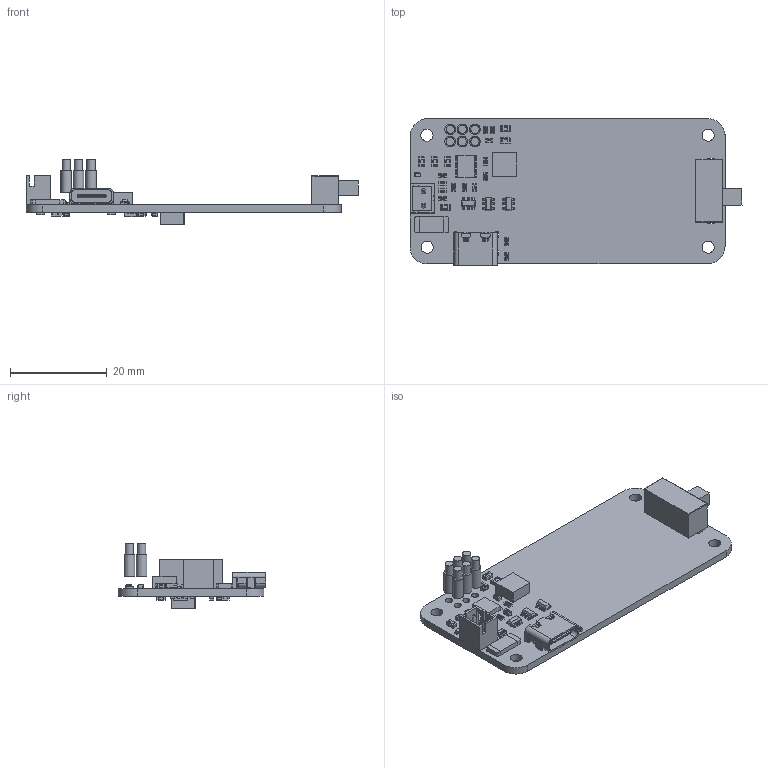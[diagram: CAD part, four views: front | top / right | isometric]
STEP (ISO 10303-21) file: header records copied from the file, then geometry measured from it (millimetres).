
FILE_DESCRIPTION(/* description */ (''),/* implementation_level */ '2;1');
FILE_NAME(/* name */ 'Pi Zero UPS HAT_A_Rve1.4_step.prt.stp',/* time_stamp */ '2025-08-19T13:45:08+08:00',/* author */ (''),/* organization */ (''),/* preprocessor_version */ 'ST-DEVELOPER v16.7',/* originating_system */ 'SIEMENS PLM Software NX 12.0',/* authorisation */ '');
FILE_SCHEMA (('AUTOMOTIVE_DESIGN { 1 0 10303 214 3 1 1 1 }'));
Length unit declared in the file: millimetre
Products named in the file (77): C_060337585; LOGO_; User_Library-LED_0603_R_Pad; User_Library-LED_0603_R_Pocket001; User_Library-LED_0603_R_Fillet; User_Library-LED_0603_R_Pad004; User_Library-LED_0603_R_Pocket002; ALSRobot-QFN16_3x3_User_Library-QFN-16_3x3_18; ALSRobot-QFN16_3x3_User_Library-QFN-16_3x3_17; ALSRobot-QFN16_3x3_User_Library-QFN-16_3x3_16; ALSRobot-QFN16_3x3_User_Library-QFN-16_3x3_15; ALSRobot-QFN16_3x3_User_Library-QFN-16_3x3_14; ALSRobot-QFN16_3x3_User_Library-QFN-16_3x3_13; ALSRobot-QFN16_3x3_User_Library-QFN-16_3x3_12; ALSRobot-QFN16_3x3_User_Library-QFN-16_3x3_11; ALSRobot-QFN16_3x3_User_Library-QFN-16_3x3_10; ALSRobot-QFN16_3x3_User_Library-QFN-16_3x3_9; ALSRobot-QFN16_3x3_User_Library-QFN-16_3x3_8; ALSRobot-QFN16_3x3_User_Library-QFN-16_3x3_7; ALSRobot-QFN16_3x3_User_Library-QFN-16_3x3_6; ALSRobot-QFN16_3x3_User_Library-QFN-16_3x3_5; ALSRobot-QFN16_3x3_User_Library-QFN-16_3x3_4; ALSRobot-QFN16_3x3_User_Library-QFN-16_3x3_3; ALSRobot-QFN16_3x3_User_Library-QFN-16_3x3_2; ALSRobot-QFN16_3x3_User_Library-QFN-16_3x3_1; User_Library-0805_SMD_Capacitor; USB_Type_C_6pin; sip254p-3v2; User_Library-R0603-2; Open CASCADE STEP translator 6.8 3.1.1; AKAIGUAN; aARO10; AJIEKOU; AXINPIAN; A2R2; SOT23-6-1; C_0603; C1; C2; C3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
Assembly tree (106 placements, depth 4):
  Pi Zero UPS HAT_A_Rve1.4_step
    Board
      Open CASCADE STEP translator 6.8 3.1.1
    R2
      User_Library-R0603-2
    U3
      QFN16_3x3
        ALSRobot-QFN16_3x3_User_Library-QFN-16_3x3_1
        ALSRobot-QFN16_3x3_User_Library-QFN-16_3x3_2
        ALSRobot-QFN16_3x3_User_Library-QFN-16_3x3_3
        ALSRobot-QFN16_3x3_User_Library-QFN-16_3x3_4
        ALSRobot-QFN16_3x3_User_Library-QFN-16_3x3_5
        ALSRobot-QFN16_3x3_User_Library-QFN-16_3x3_6
        ALSRobot-QFN16_3x3_User_Library-QFN-16_3x3_7
        ALSRobot-QFN16_3x3_User_Library-QFN-16_3x3_8
        ALSRobot-QFN16_3x3_User_Library-QFN-16_3x3_9
        ALSRobot-QFN16_3x3_User_Library-QFN-16_3x3_10
        ALSRobot-QFN16_3x3_User_Library-QFN-16_3x3_11
        ALSRobot-QFN16_3x3_User_Library-QFN-16_3x3_12
        ALSRobot-QFN16_3x3_User_Library-QFN-16_3x3_13
        ALSRobot-QFN16_3x3_User_Library-QFN-16_3x3_14
        ALSRobot-QFN16_3x3_User_Library-QFN-16_3x3_15
        ALSRobot-QFN16_3x3_User_Library-QFN-16_3x3_16
        ALSRobot-QFN16_3x3_User_Library-QFN-16_3x3_17
        ALSRobot-QFN16_3x3_User_Library-QFN-16_3x3_18
    R15
      User_Library-R0603-2
    R14
      User_Library-R0603-2
    R13
      User_Library-R0603-2
    R12
      User_Library-R0603-2
    R11
      User_Library-R0603-2
    R10
      User_Library-R0603-2
    R9
      User_Library-R0603-2
    R8
      User_Library-R0603-2
    R7
      User_Library-R0603-2
    R6
      User_Library-R0603-2
    R5
      User_Library-R0603-2
    R4
      User_Library-R0603-2
    R3
      User_Library-R0603-2
    Q2
      SOT23-6-1
    Q1
      SOT23-6-1
    P2
      sip254p-3v2
    J2
      USB_Type_C_6pin
    D1
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Bounding box: 68.5 x 30.33 x 13.41 mm (x, y, z)
Volume: 4109.7 mm3; surface area: 6735 mm2
Topology: 238 solids, 238 shells, 4382 faces, 10667 edges, 6802 vertices
Faces by surface type: plane 2034, bspline 1525, cylinder 677, sphere 140, revolution 4, cone 2
Full cylindrical faces by diameter (mm): 0.914 x2, 1 x5, 1.45 x6, 1.7 x6, 2.2 x6, 2.5 x4
Entity records: 51754 total; most frequent: CARTESIAN_POINT 18782, ORIENTED_EDGE 6018, DIRECTION 5562, EDGE_CURVE 3009, LINE 2082, VECTOR 2082, VERTEX_POINT 1990, AXIS2_PLACEMENT_3D 1738
